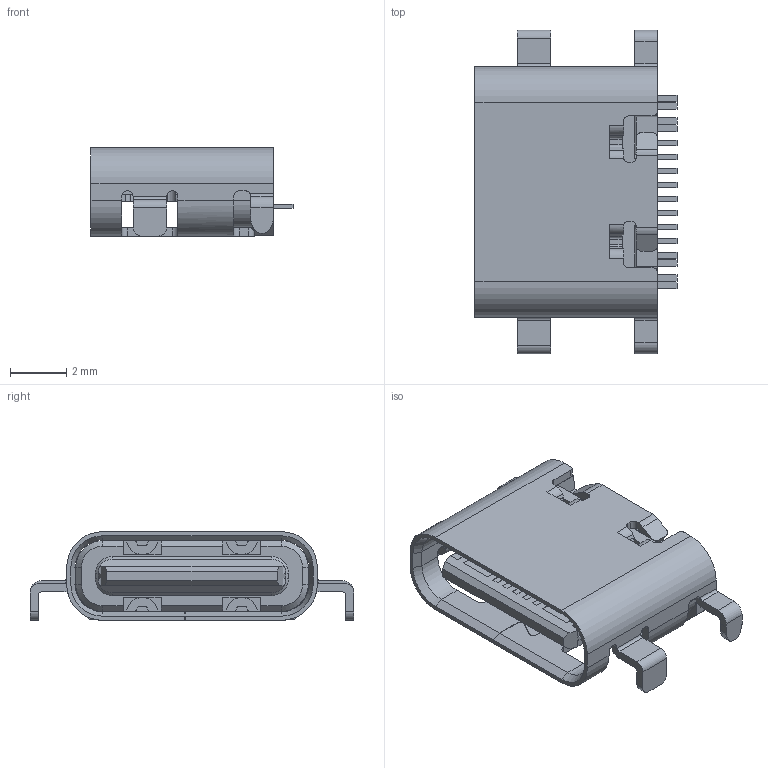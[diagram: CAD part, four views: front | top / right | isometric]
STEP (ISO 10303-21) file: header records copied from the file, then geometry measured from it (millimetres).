
FILE_DESCRIPTION (( 'STEP AP214' ), '1' );
FILE_NAME ('Same_Sky_UJ20-C-H-G-MSMT-4B-P16-TR.step', '2026-02-05T03:41:29', ( '' ), ( '' ), 'SwSTEP 2.0', 'SolidWorks 2025', '' );
FILE_SCHEMA (( 'AUTOMOTIVE_DESIGN' ));
Length unit declared in the file: millimetre
Products named in the file (1): Same_Sky_UJ20-C-H-G-MSMT-4B-P16-TR
Bounding box: 7.21 x 11.55 x 3.16 mm (x, y, z)
Volume: 95.8 mm3; surface area: 431 mm2
Topology: 1 solids, 1 shells, 546 faces, 1583 edges, 1038 vertices
Faces by surface type: plane 386, cylinder 116, bspline 32, cone 12
Entity records: 21883 total; most frequent: CARTESIAN_POINT 4392, ORIENTED_EDGE 3166, DIRECTION 2757, EDGE_CURVE 1583, VECTOR 1251, LINE 1251, VERTEX_POINT 1038, AXIS2_PLACEMENT_3D 753
